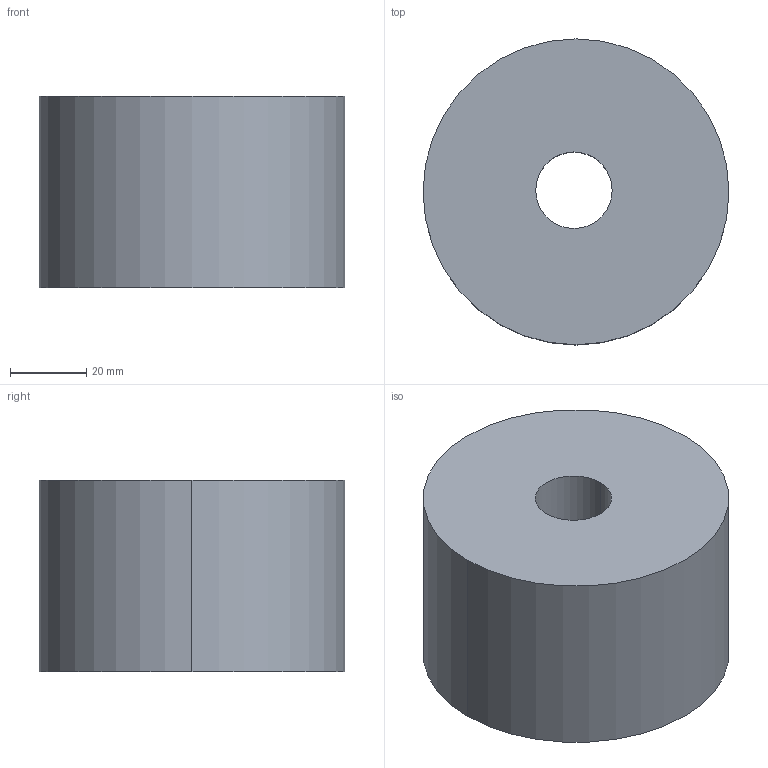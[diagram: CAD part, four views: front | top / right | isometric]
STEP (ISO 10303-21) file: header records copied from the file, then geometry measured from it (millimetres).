
FILE_DESCRIPTION (( 'STEP AP203' ), '1' );
FILE_NAME ('Base_Default_sldprt.STEP', '2025-01-16T15:44:29', ( '' ), ( '' ), 'SwSTEP 2.0', 'SolidWorks 2020', '' );
FILE_SCHEMA (( 'CONFIG_CONTROL_DESIGN' ));
Length unit declared in the file: millimetre
Products named in the file (1): Base_Default_sldprt
Bounding box: 80 x 80 x 50 mm (x, y, z)
Volume: 235619.4 mm3; surface area: 25132.7 mm2
Topology: 1 solids, 1 shells, 6 faces, 12 edges, 8 vertices
Faces by surface type: cylinder 4, plane 2
Entity records: 245 total; most frequent: DIRECTION 34, CARTESIAN_POINT 27, ORIENTED_EDGE 24, AXIS2_PLACEMENT_3D 15, EDGE_CURVE 12, VERTEX_POINT 8, PERSON_AND_ORGANIZATION 8, EDGE_LOOP 8
